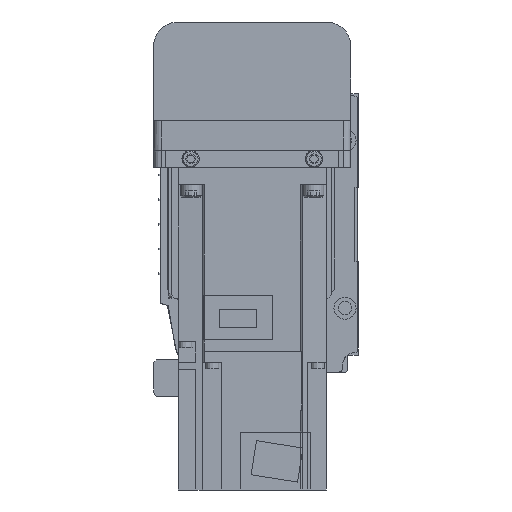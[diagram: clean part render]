
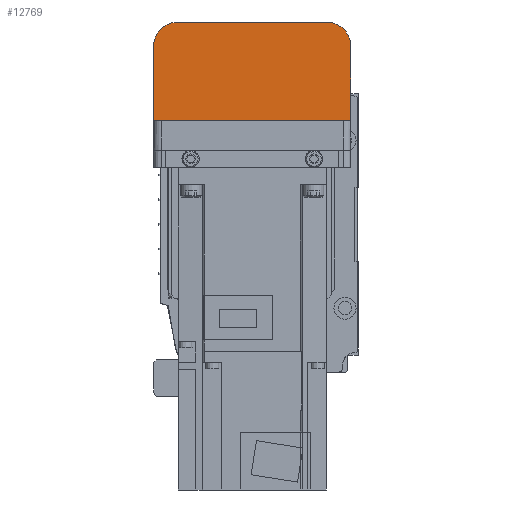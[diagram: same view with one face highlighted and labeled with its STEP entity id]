
A CAD part, left-side view. The second image highlights one B-rep face of the part: STEP entity #12769.
In plain terms, the highlighted planar face has unit normal (-1, 0, 0).
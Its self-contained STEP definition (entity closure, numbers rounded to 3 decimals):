
#499=CIRCLE('',#13753,10.);
#500=CIRCLE('',#13754,10.);
#2192=ORIENTED_EDGE('',*,*,#5155,.F.);
#2193=ORIENTED_EDGE('',*,*,#5156,.F.);
#2194=ORIENTED_EDGE('',*,*,#5157,.F.);
#2195=ORIENTED_EDGE('',*,*,#5158,.F.);
#2196=ORIENTED_EDGE('',*,*,#5159,.F.);
#2197=ORIENTED_EDGE('',*,*,#5160,.F.);
#5155=EDGE_CURVE('',#6743,#6739,#8043,.T.);
#5156=EDGE_CURVE('',#6755,#6743,#8044,.T.);
#5157=EDGE_CURVE('',#6756,#6755,#499,.T.);
#5158=EDGE_CURVE('',#6757,#6756,#8045,.T.);
#5159=EDGE_CURVE('',#6758,#6757,#500,.T.);
#5160=EDGE_CURVE('',#6739,#6758,#8046,.T.);
#6739=VERTEX_POINT('',#19981);
#6743=VERTEX_POINT('',#19991);
#6755=VERTEX_POINT('',#20020);
#6756=VERTEX_POINT('',#20022);
#6757=VERTEX_POINT('',#20024);
#6758=VERTEX_POINT('',#20026);
#8043=LINE('',#20018,#9271);
#8044=LINE('',#20019,#9272);
#8045=LINE('',#20023,#9273);
#8046=LINE('',#20027,#9274);
#9271=VECTOR('',#16054,1000.);
#9272=VECTOR('',#16055,1000.);
#9273=VECTOR('',#16058,1000.);
#9274=VECTOR('',#16061,1000.);
#10326=EDGE_LOOP('',(#2192,#2193,#2194,#2195,#2196,#2197));
#11340=FACE_BOUND('',#10326,.T.);
#12197=PLANE('',#13752);
#12769=ADVANCED_FACE('',(#11340),#12197,.F.);
#13752=AXIS2_PLACEMENT_3D('',#20017,#16052,#16053);
#13753=AXIS2_PLACEMENT_3D('',#20021,#16056,#16057);
#13754=AXIS2_PLACEMENT_3D('',#20025,#16059,#16060);
#16052=DIRECTION('',(1.,0.,0.));
#16053=DIRECTION('',(0.,0.,-1.));
#16054=DIRECTION('',(0.,-1.,0.));
#16055=DIRECTION('',(0.,0.,1.));
#16056=DIRECTION('',(1.,0.,0.));
#16057=DIRECTION('',(0.,0.,-1.));
#16058=DIRECTION('',(0.,1.,0.));
#16059=DIRECTION('',(1.,0.,0.));
#16060=DIRECTION('',(0.,0.,-1.));
#16061=DIRECTION('',(0.,0.,-1.));
#19981=CARTESIAN_POINT('',(-192.,-40.,-12.1));
#19991=CARTESIAN_POINT('',(-192.,40.,-12.1));
#20017=CARTESIAN_POINT('',(-192.,37.,7.));
#20018=CARTESIAN_POINT('',(-192.,50.,-12.1));
#20019=CARTESIAN_POINT('',(-192.,40.,-42.));
#20020=CARTESIAN_POINT('',(-192.,40.,-42.));
#20021=CARTESIAN_POINT('',(-192.,30.,-42.));
#20022=CARTESIAN_POINT('',(-192.,30.,-52.));
#20023=CARTESIAN_POINT('',(-192.,-30.,-52.));
#20024=CARTESIAN_POINT('',(-192.,-30.,-52.));
#20025=CARTESIAN_POINT('',(-192.,-30.,-42.));
#20026=CARTESIAN_POINT('',(-192.,-40.,-42.));
#20027=CARTESIAN_POINT('',(-192.,-40.,-12.1));
